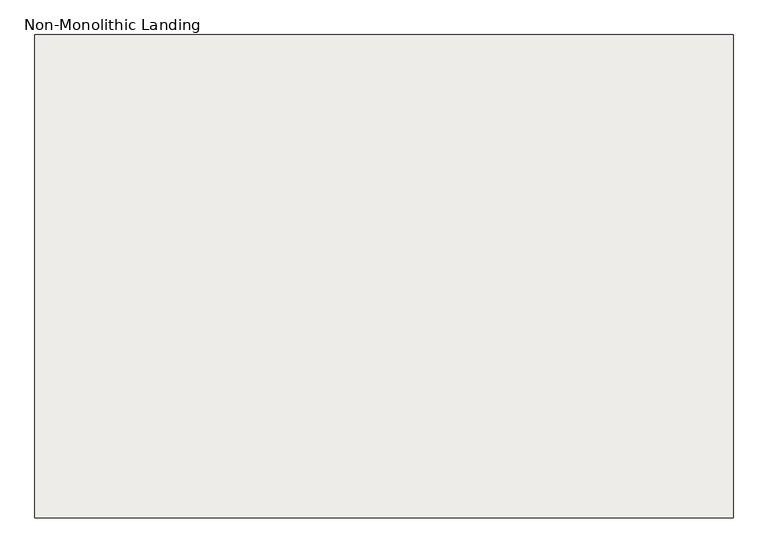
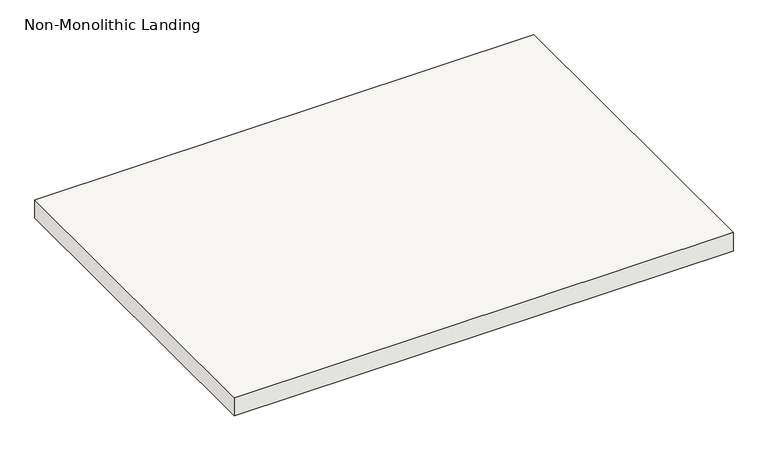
"""IFC4 building model written with IfcOpenShell, lengths in millimetres: slab geometry, Non-Monolithic Landing."""

import ifcopenshell
import ifcopenshell.guid

model = None  # the IFC model being written
_history = None  # IfcOwnerHistory: only IFC2X3 demands one
_inside = {}  # id of a spatial element -> (the spatial element, [elements in it])
_under = {}  # id of a project, library or spatial element -> (it, [spatial elements below it])
_declared = {}  # id of a project -> (the project, [libraries it declares])
_typed = {}  # id of a type object -> (the type object, [elements of that type])
_made_of = {}  # id of a material, layer set ... -> (it, [elements and type objects made of it])


def new_model(schema):
    """Start an empty IFC model of exactly this schema.

    Asked for "IFC4X3", IfcOpenShell would pick the latest addendum, in which some entities
    have other attributes; the version numbers below select the first issue.
    IFC2X3 requires an IfcOwnerHistory on every rooted entity: one is made here for all.
    """
    global model, _history
    if schema == "IFC4X3":
        model = ifcopenshell.file(schema_version=(4, 3, 0, 0))
    else:
        model = ifcopenshell.file(schema=schema)
    _inside.clear()
    _under.clear()
    _declared.clear()
    _typed.clear()
    _made_of.clear()
    _history = None
    if model.schema == "IFC2X3":
        org = make("IfcOrganization", Name="unknown")
        user = make(
            "IfcPersonAndOrganization",
            ThePerson=make("IfcPerson", FamilyName="unknown"),
            TheOrganization=org,
        )
        app = make(
            "IfcApplication",
            ApplicationDeveloper=org,
            Version="unknown",
            ApplicationFullName="unknown",
            ApplicationIdentifier="unknown",
        )
        _history = make(
            "IfcOwnerHistory",
            OwningUser=user,
            OwningApplication=app,
            ChangeAction="ADDED",
            CreationDate=0,
        )
    return model


def make(cls, **values):
    """One entity of the class cls with the attributes given. An attribute that is None is left unset."""
    return model.create_entity(
        cls, **{name: value for name, value in values.items() if value is not None}
    )


def rooted(cls, **values):
    """An entity with a GlobalId (a new one), such as an element, a storey or a relation."""
    return make(cls, GlobalId=ifcopenshell.guid.new(), OwnerHistory=_history, **values)


def si_unit(unit_type, name, prefix=None):
    """IfcSIUnit, for example si_unit("LENGTHUNIT", "METRE", prefix="MILLI")."""
    return make("IfcSIUnit", UnitType=unit_type, Prefix=prefix, Name=name)


def assignment(units):
    """IfcUnitAssignment: the units of a project."""
    return None if units is None else make("IfcUnitAssignment", Units=units)


def point(xyz):
    """IfcCartesianPoint."""
    return None if xyz is None else make("IfcCartesianPoint", Coordinates=xyz)


def direction(xyz):
    """IfcDirection."""
    return None if xyz is None else make("IfcDirection", DirectionRatios=xyz)


def frame(location, z_axis=None, x_axis=None):
    """IfcAxis2Placement3D, a coordinate frame: its origin and axes. An axis left out is left unset."""
    return make(
        "IfcAxis2Placement3D",
        Location=point(location),
        Axis=direction(z_axis),
        RefDirection=direction(x_axis),
    )


def origin():
    """The frame at (0, 0, 0) with its axes left unset."""
    return frame((0.0, 0.0, 0.0))


def place(relative_to, where):
    """IfcLocalPlacement: puts the frame where relative to a parent placement (None: the world)."""
    return make(
        "IfcLocalPlacement", PlacementRelTo=relative_to, RelativePlacement=where
    )


def context(
    kind, dimensions, precision=None, world=None, true_north=None, identifier=None
):
    """IfcGeometricRepresentationContext, for example the 3D "Model" context."""
    return make(
        "IfcGeometricRepresentationContext",
        ContextIdentifier=identifier,
        ContextType=kind,
        CoordinateSpaceDimension=dimensions,
        Precision=precision,
        WorldCoordinateSystem=world,
        TrueNorth=true_north,
    )


def project(units=None, contexts=None):
    """IfcProject with its units and contexts."""
    return rooted(
        "IfcProject",
        Name="project",
        RepresentationContexts=contexts,
        UnitsInContext=assignment(units),
    )


def spatial(cls, under=None, at=None, **own):
    """A site, building, storey or space (cls), placed at a placement, below another one or the project."""
    s = rooted(cls, ObjectPlacement=at, **own)
    if under is not None:
        _under.setdefault(under.id(), (under, []))[1].append(s)
    return s


def polyline(points):
    """IfcPolyline through the points."""
    return make("IfcPolyline", Points=[point(p) for p in points])


def outline(outer, holes=None, kind="AREA"):
    """IfcArbitraryClosedProfileDef: a profile drawn as a closed curve; with holes, ...WithVoids."""
    if holes is None:
        return make("IfcArbitraryClosedProfileDef", ProfileType=kind, OuterCurve=outer)
    return make(
        "IfcArbitraryProfileDefWithVoids",
        ProfileType=kind,
        OuterCurve=outer,
        InnerCurves=holes,
    )


def extrude(swept, where, along, depth):
    """IfcExtrudedAreaSolid: the profile swept, set in the frame where, extruded along a direction by depth."""
    return make(
        "IfcExtrudedAreaSolid",
        SweptArea=swept,
        Position=where,
        ExtrudedDirection=direction(along),
        Depth=depth,
    )


def shape(context_of_items, identifier, shape_type, items):
    """IfcShapeRepresentation: the items that make up one representation, for example the "Body"."""
    return make(
        "IfcShapeRepresentation",
        ContextOfItems=context_of_items,
        RepresentationIdentifier=identifier,
        RepresentationType=shape_type,
        Items=items,
    )


def source(mapping_origin, context_of_items, identifier, shape_type, items):
    """IfcRepresentationMap: a shape defined once, which mapped items show again and again."""
    return make(
        "IfcRepresentationMap",
        MappingOrigin=mapping_origin,
        MappedRepresentation=shape(context_of_items, identifier, shape_type, items),
    )


def transform(
    local_origin,
    x_axis=None,
    y_axis=None,
    z_axis=None,
    scale=None,
    scale2=None,
    scale3=None,
    uniform=True,
):
    """IfcCartesianTransformationOperator3D, or its non-uniform kind. x_axis, y_axis, z_axis: its Axis1, 2, 3."""
    if uniform:
        return make(
            "IfcCartesianTransformationOperator3D",
            Axis1=direction(x_axis),
            Axis2=direction(y_axis),
            LocalOrigin=point(local_origin),
            Scale=scale,
            Axis3=direction(z_axis),
        )
    return make(
        "IfcCartesianTransformationOperator3DnonUniform",
        Axis1=direction(x_axis),
        Axis2=direction(y_axis),
        LocalOrigin=point(local_origin),
        Scale=scale,
        Axis3=direction(z_axis),
        Scale2=scale2,
        Scale3=scale3,
    )


def mapped(mapping_source, mapping_target):
    """IfcMappedItem: shows the shape of a source again, moved by a transform."""
    return make(
        "IfcMappedItem", MappingSource=mapping_source, MappingTarget=mapping_target
    )


def made_of(thing, what):
    """Note that an element or type object is made of a material, layer set ...; save() writes the relation."""
    if what is not None:
        _made_of.setdefault(what.id(), (what, []))[1].append(thing)
    return thing


def element(
    cls,
    number,
    at=None,
    inside=None,
    cuts=None,
    type_object=None,
    material=None,
    context=None,
    identifier="Body",
    shape_type=None,
    held_by="IfcProductDefinitionShape",
    body=None,
    shapes=None,
    **own,
):
    """One element of the class cls, such as IfcWall. Its Tag is "e" and its number.

    at: its placement. inside: the storey or other place that contains it. cuts: it is an
    opening in that element (IfcRelVoidsElement). A single representation is given by context,
    identifier, shape_type and body (its items); several are given by shapes. held_by: the class
    of the entity that holds the representations. save() writes the other relations.
    """
    e = rooted(cls, Tag="e%d" % number, ObjectPlacement=at, **own)
    if body is not None:
        shapes = [shape(context, identifier, shape_type, body)]
    if shapes is not None:
        e.Representation = make(held_by, Representations=shapes)
    if inside is not None:
        _inside.setdefault(inside.id(), (inside, []))[1].append(e)
    if cuts is not None:
        rooted(
            "IfcRelVoidsElement", RelatingBuildingElement=cuts, RelatedOpeningElement=e
        )
    if type_object is not None:
        _typed.setdefault(type_object.id(), (type_object, []))[1].append(e)
    return made_of(e, material)


def aggregate(whole, parts):
    """IfcRelAggregates: a whole, such as a stair, and the parts it consists of."""
    return rooted("IfcRelAggregates", RelatingObject=whole, RelatedObjects=parts)


def save(model, path):
    """Write the relations noted so far, then the file.

    IfcRelAggregates (storeys below a building ...), IfcRelContainedInSpatialStructure (elements
    in a storey), IfcRelDefinesByType, IfcRelAssociatesMaterial and IfcRelDeclares: one each for
    every whole, place, type object, material and project.
    """
    for whole, parts in _under.values():
        aggregate(whole, parts)
    for where, things in _inside.values():
        rooted(
            "IfcRelContainedInSpatialStructure",
            RelatedElements=things,
            RelatingStructure=where,
        )
    for kind, things in _typed.values():
        rooted("IfcRelDefinesByType", RelatedObjects=things, RelatingType=kind)
    for what, things in _made_of.values():
        rooted("IfcRelAssociatesMaterial", RelatedObjects=things, RelatingMaterial=what)
    for by, libraries in _declared.values():
        rooted("IfcRelDeclares", RelatingContext=by, RelatedDefinitions=libraries)
    model.write(path)


def non_monolithic_landing_f4672ff2(model_context):
    return source(origin(), model_context, "Body", "SweptSolid", [
        extrude(outline(polyline([(27862.0112561, -21111.4617549), (29182.8112561, -21111.4617549), (29182.8112561, -22025.8617549), (27862.0112561, -22025.8617549), (27862.0112561, -21111.4617549)])), frame((0.0, 0.0, 2126.3428571), z_axis=(0.0, 0.0, 1.0), x_axis=(1.0, 0.0, 0.0)), (0.0, 0.0, 1.0), 50.8),
    ])


if __name__ == "__main__":
    model = new_model("IFC4")
    model_context = context("Model", 3, world=origin())
    ifc_project = project(units=[si_unit("LENGTHUNIT", "METRE", prefix="MILLI")], contexts=[model_context])
    site = spatial("IfcSite", under=ifc_project)
    building = spatial("IfcBuilding", under=site)
    placement = place(None, origin())
    non_monolithic_landing_shape = non_monolithic_landing_f4672ff2(model_context)
    element("IfcSlab", 1, ObjectType="Non-Monolithic Landing", at=placement, inside=building, context=model_context, shape_type="MappedRepresentation", body=[
        mapped(non_monolithic_landing_shape, transform((0.0, 0.0, 0.0), x_axis=(1.0, 0.0, 0.0), y_axis=(0.0, 1.0, 0.0), z_axis=(0.0, 0.0, 1.0))),
    ])
    save(model, "model.ifc")
